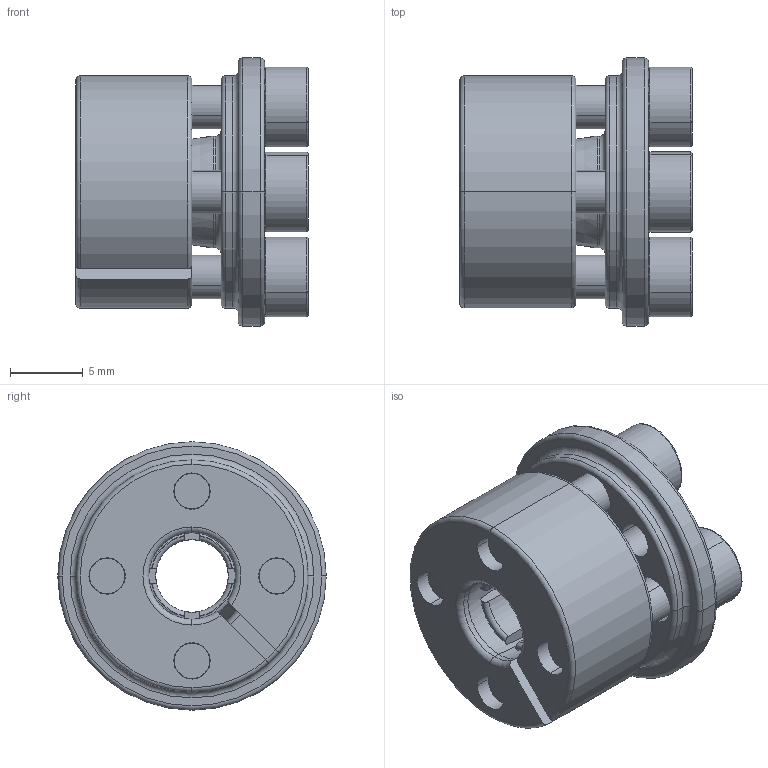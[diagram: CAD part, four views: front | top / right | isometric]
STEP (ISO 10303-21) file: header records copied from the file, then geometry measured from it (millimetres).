
FILE_DESCRIPTION (( 'STEP AP203' ), '1' );
FILE_NAME ('SAPA-05-16-45C.STEP', '2013-07-22T03:37:04', ( 'MYCOM' ), ( '' ), 'SwSTEP 2.0', 'SolidWorks 2012', '' );
FILE_SCHEMA (( 'CONFIG_CONTROL_DESIGN' ));
Length unit declared in the file: millimetre
Products named in the file (1): SAPA-05-16-45C
Bounding box: 16 x 18.5 x 18.5 mm (x, y, z)
Volume: 2306.3 mm3; surface area: 2310.9 mm2
Topology: 1 solids, 1 shells, 218 faces, 547 edges, 328 vertices
Faces by surface type: plane 83, cylinder 58, torus 56, cone 21
Entity records: 6699 total; most frequent: CARTESIAN_POINT 1288, DIRECTION 1212, ORIENTED_EDGE 1078, EDGE_CURVE 539, AXIS2_PLACEMENT_3D 504, VERTEX_POINT 328, CIRCLE 285, EDGE_LOOP 245
